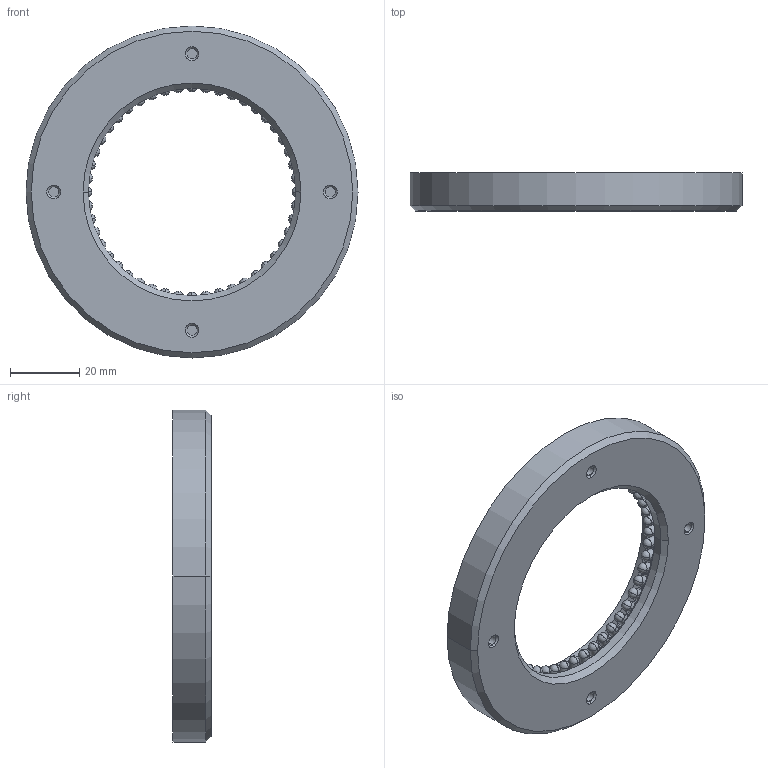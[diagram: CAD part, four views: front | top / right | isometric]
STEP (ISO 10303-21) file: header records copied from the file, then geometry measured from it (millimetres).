
FILE_DESCRIPTION((''),'2;1');
FILE_NAME('RL-96-90_ASM','2020-03-28T',('ASUS'),(''),'PRO/ENGINEER BY PARAMETRIC TECHNOLOGY CORPORATION, 2008380','PRO/ENGINEER BY PARAMETRIC TECHNOLOGY CORPORATION, 2008380','');
FILE_SCHEMA(('CONFIG_CONTROL_DESIGN'));
Length unit declared in the file: millimetre
Products named in the file (3): RL-96-90; 5_; RL-96-90_ASM
Assembly tree (49 placements, depth 2):
  RL-96-90_ASM
    RL-96-90
    5_  x48
Bounding box: 96 x 11 x 96 mm (x, y, z)
Volume: 43732.5 mm3; surface area: 19054 mm2
Topology: 49 solids, 49 shells, 422 faces, 844 edges, 478 vertices
Faces by surface type: cylinder 208, plane 104, sphere 96, cone 14
Entity records: 1658 total; most frequent: DIRECTION 342, CARTESIAN_POINT 243, ORIENTED_EDGE 180, AXIS2_PLACEMENT_3D 154, EDGE_CURVE 90, CIRCLE 56, VERTEX_POINT 55, EDGE_LOOP 55
